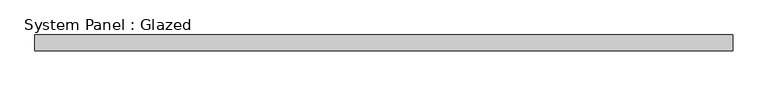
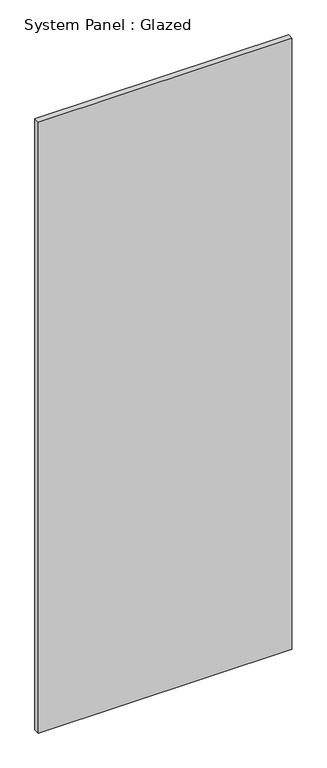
"""IFC4 building model written with IfcOpenShell, lengths in millimetres: plate geometry, System Panel : Glazed."""

from ifc_helpers import new_model, si_unit, origin, origin_with_axes, place, context, project, spatial, polyline, outline, extrude, source, transform, mapped, element, save


def system_panel_glazed_47250058(model_context):
    return source(origin(), model_context, "Body", "SweptSolid", [
        extrude(outline(polyline([(549.9638169, 0.0), (-549.9638169, 0.0), (-549.9638169, 25.0), (549.9638169, 25.0), (549.9638169, 0.0)])), origin_with_axes(), (0.0, 0.0, 1.0), 2800.0),
    ])


if __name__ == "__main__":
    model = new_model("IFC4")
    model_context = context("Model", 3, world=origin())
    ifc_project = project(units=[si_unit("LENGTHUNIT", "METRE", prefix="MILLI")], contexts=[model_context])
    site = spatial("IfcSite", under=ifc_project)
    building = spatial("IfcBuilding", under=site)
    placement = place(None, origin())
    system_panel_glazed_shape = system_panel_glazed_47250058(model_context)
    element("IfcPlate", 1, ObjectType="System Panel : Glazed", at=placement, inside=building, context=model_context, shape_type="MappedRepresentation", body=[
        mapped(system_panel_glazed_shape, transform((0.0, 0.0, 0.0), x_axis=(1.0, 0.0, 0.0), y_axis=(0.0, 1.0, 0.0), z_axis=(0.0, 0.0, 1.0))),
    ])
    save(model, "model.ifc")
